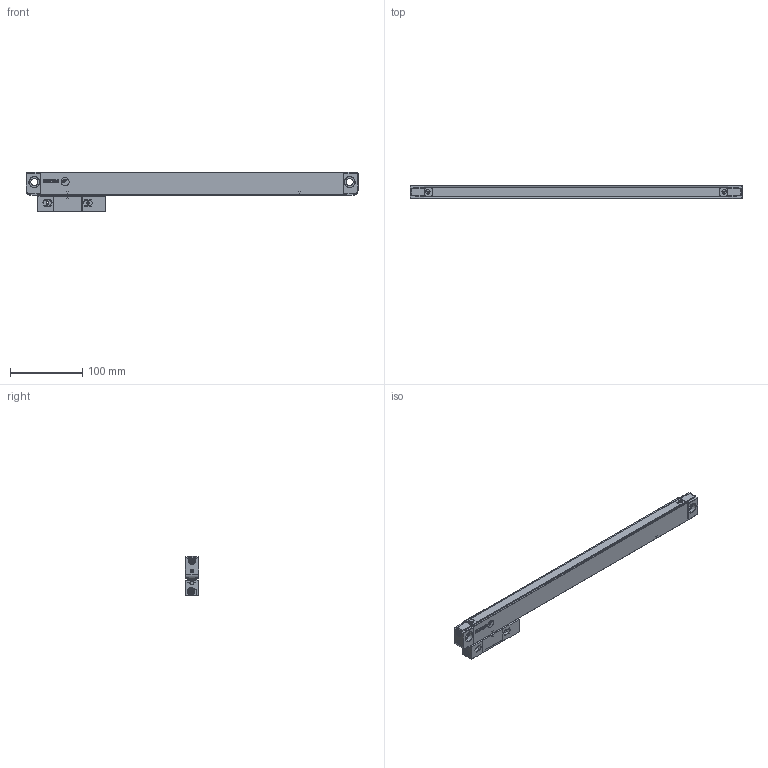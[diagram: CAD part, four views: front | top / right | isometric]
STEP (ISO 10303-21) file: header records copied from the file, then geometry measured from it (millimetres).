
FILE_DESCRIPTION(('Creo Elements/Direct Modeling STEP Export'),'2;1');
FILE_NAME('REGLA_S2-320-T.stp','2018-10-31T18:31:52',(''),(''),'Creo Elements/Direct Modeling STEP processor for AP214 (Solid Model)','Creo Elements/Direct Modeling 19.0G 27-Nov-2017 (C) Parametric Technology GmbH','');
FILE_SCHEMA(('AUTOMOTIVE_DESIGN { 1 0 10303 214 1 1 1 1 }'));
Length unit declared in the file: millimetre
Products named in the file (3): CABEZA_ROSCADA_REGLA_S; REGLA_S-320-T; REGLA_S2-320-T
Assembly tree (2 placements, depth 2):
  REGLA_S2-320-T
    REGLA_S-320-T
    CABEZA_ROSCADA_REGLA_S
Bounding box: 458 x 18.3 x 54.3 mm (x, y, z)
Volume: 266660.4 mm3; surface area: 73937.3 mm2
Topology: 2 solids, 22 shells, 880 faces, 2250 edges, 1448 vertices
Faces by surface type: plane 354, cylinder 301, cone 174, bspline 38, torus 6, sphere 4, extrusion 3
Entity records: 30904 total; most frequent: CARTESIAN_POINT 7358, ORIENTED_EDGE 4472, DIRECTION 3788, EDGE_CURVE 2236, VERTEX_POINT 1448, AXIS2_PLACEMENT_3D 1296, VECTOR 1196, LINE 1193
